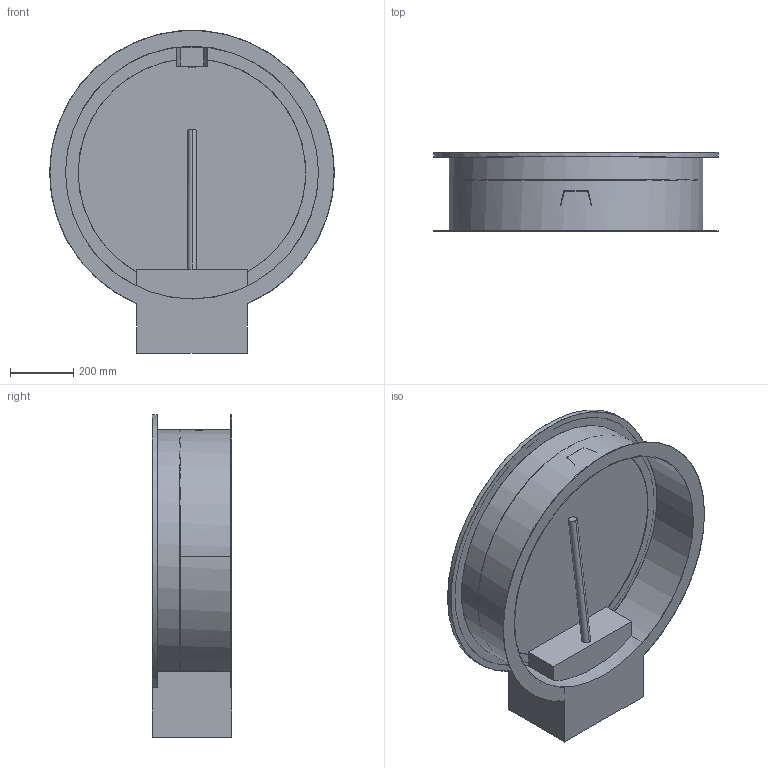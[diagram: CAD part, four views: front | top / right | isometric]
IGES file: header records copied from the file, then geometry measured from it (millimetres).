
Start section:  PTC IGES file: 51526200.igs
Global section: file name: 51526200.igs; native system: Creo Parametric by PTC Inc.; preprocessor: 2022162; author: wep; organization: Unknown; date: 20240910.091414; units: millimetre
Bounding box: 899.87 x 250 x 1021.06 mm (x, y, z)
Surface area: 3382783.2 mm2 (no closed solid volume)
Topology: 0 solids, 0 shells, 54 faces, 264 edges, 264 vertices
Faces by surface type: bspline 32, revolution 22
